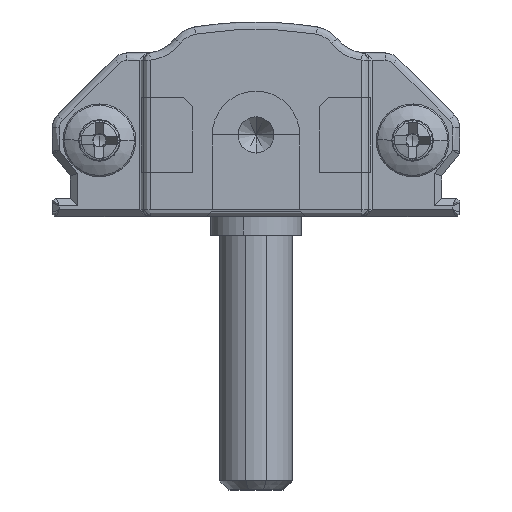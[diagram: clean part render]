
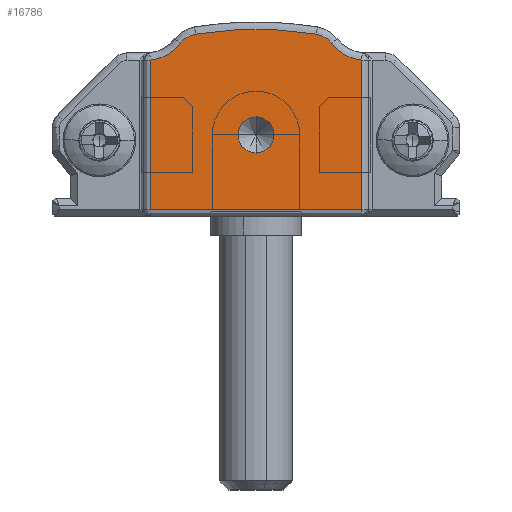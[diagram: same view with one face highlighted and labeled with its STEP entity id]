
A CAD part, front view. The second image highlights one B-rep face of the part: STEP entity #16786.
In plain terms, the highlighted planar face has unit normal (0, -1, 0).
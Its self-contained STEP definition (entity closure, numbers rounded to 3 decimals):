
#243 = CIRCLE ( 'NONE', #39602, 20.676 ) ;
#497 = VERTEX_POINT ( 'NONE', #14775 ) ;
#610 = AXIS2_PLACEMENT_3D ( 'NONE', #24237, #46226, #35298 ) ;
#673 = ORIENTED_EDGE ( 'NONE', *, *, #44911, .F. ) ;
#1213 = CARTESIAN_POINT ( 'NONE',  ( 11.2, -15., 5.5 ) ) ;
#1259 = DIRECTION ( 'NONE',  ( 0., 0., -1. ) ) ;
#1462 = CIRCLE ( 'NONE', #9080, 2.4 ) ;
#2418 = ORIENTED_EDGE ( 'NONE', *, *, #41505, .T. ) ;
#2615 = DIRECTION ( 'NONE',  ( 1., 0., 0. ) ) ;
#3862 = ORIENTED_EDGE ( 'NONE', *, *, #5009, .F. ) ;
#3926 = FACE_OUTER_BOUND ( 'NONE', #37445, .T. ) ;
#5009 = EDGE_CURVE ( 'NONE', #497, #42478, #25714, .T. ) ;
#5045 = VERTEX_POINT ( 'NONE', #25901 ) ;
#6088 = EDGE_LOOP ( 'NONE', ( #3862, #673 ) ) ;
#6104 = DIRECTION ( 'NONE',  ( 0., 0., 1. ) ) ;
#7004 = DIRECTION ( 'NONE',  ( 0., -1., 0. ) ) ;
#7620 = ORIENTED_EDGE ( 'NONE', *, *, #29136, .T. ) ;
#8904 = CARTESIAN_POINT ( 'NONE',  ( 5.4, -15., 0.4 ) ) ;
#9080 = AXIS2_PLACEMENT_3D ( 'NONE', #45192, #27248, #41590 ) ;
#9640 = ORIENTED_EDGE ( 'NONE', *, *, #30461, .T. ) ;
#9940 = DIRECTION ( 'NONE',  ( 0., -1., 0. ) ) ;
#9997 = LINE ( 'NONE', #13126, #37333 ) ;
#10586 = CARTESIAN_POINT ( 'NONE',  ( 5.4, -15., 0.4 ) ) ;
#10811 = CARTESIAN_POINT ( 'NONE',  ( 5.4, -15., 8.612 ) ) ;
#10907 = VERTEX_POINT ( 'NONE', #8904 ) ;
#11098 = ORIENTED_EDGE ( 'NONE', *, *, #25357, .T. ) ;
#11373 = VERTEX_POINT ( 'NONE', #23258 ) ;
#13126 = CARTESIAN_POINT ( 'NONE',  ( 17., -15., 0.4 ) ) ;
#13599 = CIRCLE ( 'NONE', #22673, 1. ) ;
#14049 = CARTESIAN_POINT ( 'NONE',  ( 17., -15., 8.612 ) ) ;
#14522 = VECTOR ( 'NONE', #6104, 1000. ) ;
#14775 = CARTESIAN_POINT ( 'NONE',  ( 11.2, -15., 3.5 ) ) ;
#15392 = AXIS2_PLACEMENT_3D ( 'NONE', #18212, #7004, #25112 ) ;
#15477 = DIRECTION ( 'NONE',  ( 0., -1., 0. ) ) ;
#15651 = AXIS2_PLACEMENT_3D ( 'NONE', #16444, #20001, #31348 ) ;
#16444 = CARTESIAN_POINT ( 'NONE',  ( 8.1, -15., 8.75 ) ) ;
#16786 = ADVANCED_FACE ( 'NONE', ( #3926, #25351 ), #35678, .T. ) ;
#18157 = VERTEX_POINT ( 'NONE', #34755 ) ;
#18212 = CARTESIAN_POINT ( 'NONE',  ( 22.15, -15., 3.606 ) ) ;
#19345 = ORIENTED_EDGE ( 'NONE', *, *, #32303, .T. ) ;
#19513 = CARTESIAN_POINT ( 'NONE',  ( 11.2, -15., -10.376 ) ) ;
#20001 = DIRECTION ( 'NONE',  ( 0., -1., 0. ) ) ;
#21394 = EDGE_CURVE ( 'NONE', #28578, #18157, #1462, .T. ) ;
#22673 = AXIS2_PLACEMENT_3D ( 'NONE', #38345, #9940, #23532 ) ;
#23258 = CARTESIAN_POINT ( 'NONE',  ( 7.068, -15., 9.541 ) ) ;
#23532 = DIRECTION ( 'NONE',  ( 0., 0., -1. ) ) ;
#24191 = LINE ( 'NONE', #38540, #14522 ) ;
#24237 = CARTESIAN_POINT ( 'NONE',  ( 11.2, -15., 4.5 ) ) ;
#25107 = DIRECTION ( 'NONE',  ( 0., 0., -1. ) ) ;
#25112 = DIRECTION ( 'NONE',  ( 0., 0., -1. ) ) ;
#25351 = FACE_BOUND ( 'NONE', #6088, .T. ) ;
#25357 = EDGE_CURVE ( 'NONE', #11373, #46873, #33545, .T. ) ;
#25714 = CIRCLE ( 'NONE', #610, 1. ) ;
#25825 = LINE ( 'NONE', #10586, #33534 ) ;
#25901 = CARTESIAN_POINT ( 'NONE',  ( 17., -15., 0.4 ) ) ;
#25983 = CARTESIAN_POINT ( 'NONE',  ( 5.162, -15., 11. ) ) ;
#27248 = DIRECTION ( 'NONE',  ( 0., 1., 0. ) ) ;
#27905 = VERTEX_POINT ( 'NONE', #46699 ) ;
#28578 = VERTEX_POINT ( 'NONE', #14049 ) ;
#29136 = EDGE_CURVE ( 'NONE', #18157, #31751, #46863, .T. ) ;
#30461 = EDGE_CURVE ( 'NONE', #5045, #28578, #24191, .T. ) ;
#31348 = DIRECTION ( 'NONE',  ( 0., 0., -1. ) ) ;
#31751 = VERTEX_POINT ( 'NONE', #40613 ) ;
#32303 = EDGE_CURVE ( 'NONE', #46873, #10907, #25825, .T. ) ;
#33534 = VECTOR ( 'NONE', #25107, 1000. ) ;
#33545 = CIRCLE ( 'NONE', #46389, 2.4 ) ;
#33790 = DIRECTION ( 'NONE',  ( 0., -1., 0. ) ) ;
#34013 = CARTESIAN_POINT ( 'NONE',  ( 14.3, -15., 8.75 ) ) ;
#34744 = AXIS2_PLACEMENT_3D ( 'NONE', #34013, #33790, #1259 ) ;
#34755 = CARTESIAN_POINT ( 'NONE',  ( 15.332, -15., 9.541 ) ) ;
#35298 = DIRECTION ( 'NONE',  ( 0., 0., -1. ) ) ;
#35678 = PLANE ( 'NONE',  #15392 ) ;
#36288 = DIRECTION ( 'NONE',  ( 0., 0., -1. ) ) ;
#36934 = EDGE_CURVE ( 'NONE', #31751, #27905, #243, .T. ) ;
#37333 = VECTOR ( 'NONE', #2615, 1000. ) ;
#37445 = EDGE_LOOP ( 'NONE', ( #9640, #43185, #7620, #39716, #44569, #11098, #19345, #2418 ) ) ;
#38345 = CARTESIAN_POINT ( 'NONE',  ( 11.2, -15., 4.5 ) ) ;
#38540 = CARTESIAN_POINT ( 'NONE',  ( 17., -15., 8.612 ) ) ;
#38677 = EDGE_CURVE ( 'NONE', #27905, #11373, #39047, .T. ) ;
#39047 = CIRCLE ( 'NONE', #15651, 1.3 ) ;
#39602 = AXIS2_PLACEMENT_3D ( 'NONE', #19513, #15477, #44802 ) ;
#39716 = ORIENTED_EDGE ( 'NONE', *, *, #36934, .T. ) ;
#39858 = DIRECTION ( 'NONE',  ( 0., 1., 0. ) ) ;
#40613 = CARTESIAN_POINT ( 'NONE',  ( 14.508, -15., 10.034 ) ) ;
#41505 = EDGE_CURVE ( 'NONE', #10907, #5045, #9997, .T. ) ;
#41590 = DIRECTION ( 'NONE',  ( 0., 0., -1. ) ) ;
#42478 = VERTEX_POINT ( 'NONE', #1213 ) ;
#43185 = ORIENTED_EDGE ( 'NONE', *, *, #21394, .T. ) ;
#44569 = ORIENTED_EDGE ( 'NONE', *, *, #38677, .T. ) ;
#44802 = DIRECTION ( 'NONE',  ( 0., 0., -1. ) ) ;
#44911 = EDGE_CURVE ( 'NONE', #42478, #497, #13599, .T. ) ;
#45192 = CARTESIAN_POINT ( 'NONE',  ( 17.238, -15., 11. ) ) ;
#46226 = DIRECTION ( 'NONE',  ( 0., -1., 0. ) ) ;
#46389 = AXIS2_PLACEMENT_3D ( 'NONE', #25983, #39858, #36288 ) ;
#46699 = CARTESIAN_POINT ( 'NONE',  ( 7.892, -15., 10.034 ) ) ;
#46863 = CIRCLE ( 'NONE', #34744, 1.3 ) ;
#46873 = VERTEX_POINT ( 'NONE', #10811 ) ;
